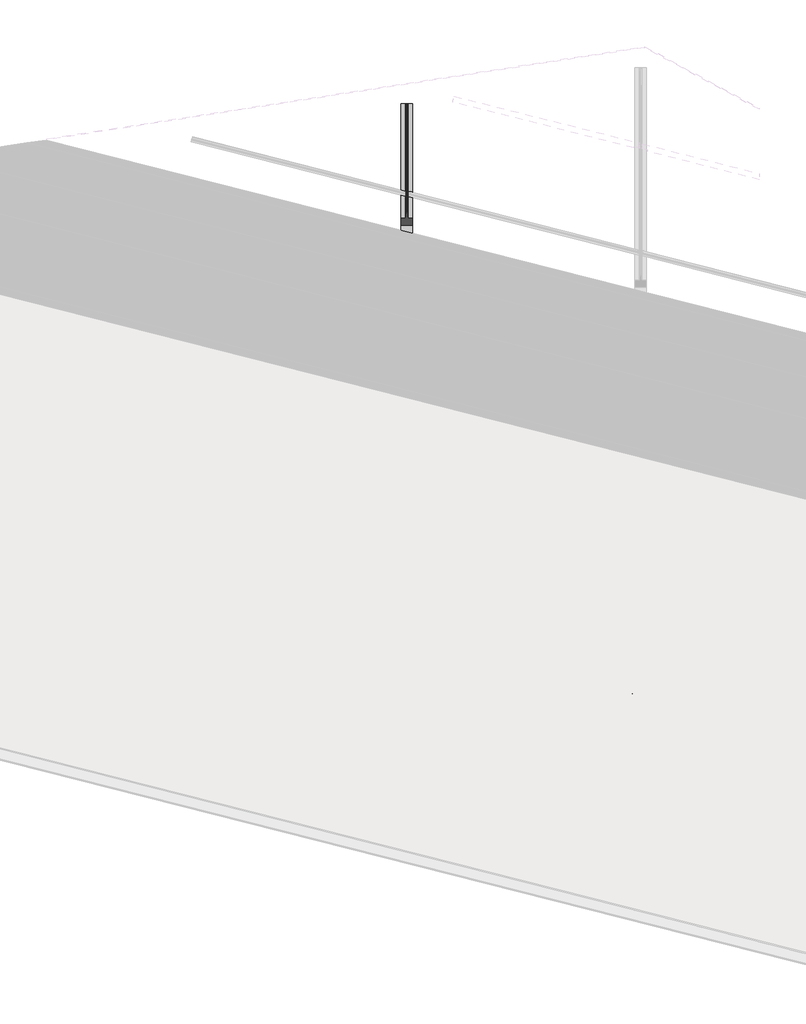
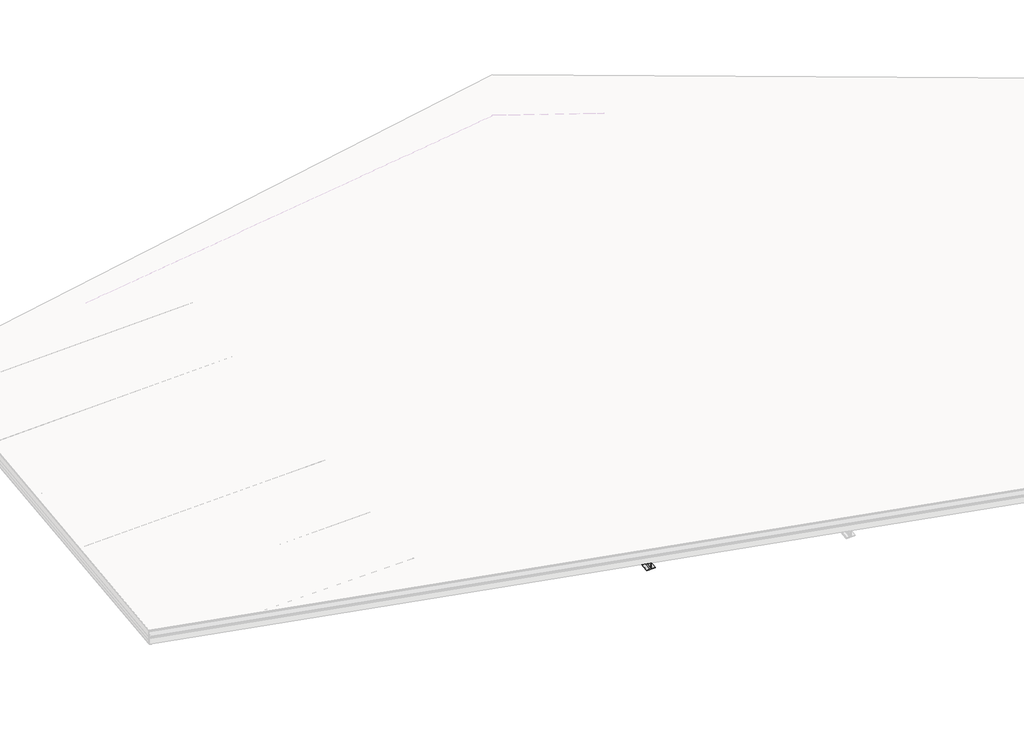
# One storey, part 4 of 10: 5 beams.
"""IFC4 building model written with IfcOpenShell, lengths in millimetres."""

from ifc_helpers import new_model, si_unit, frame, origin, place, context, project, spatial, polyline, circle_curve, ellipse_curve, transform, mapped, element, save
from ifc_brep_helpers import plane_surface, cylinder_surface, revolved_surface, advanced_brep
from components import ipe_ipe450_d757c6d6

model = new_model("IFC4")

# Units and contexts
model_context = context("Model", 3, world=origin())
ifc_project = project(units=[si_unit("LENGTHUNIT", "METRE", prefix="MILLI")], contexts=[model_context])

# Site, building, storey
site = spatial("IfcSite", under=ifc_project)
building = spatial("IfcBuilding", under=site)
storey = spatial("IfcBuildingStorey", under=building, Name="2 Toiture batiment", Elevation=872910.0)

# Beams
placement = place(None, origin())
element("IfcBeam", 1, ObjectType="IPE : IPE160", at=placement, inside=storey, context=model_context, shape_type="AdvancedBrep", body=[
    advanced_brep(
    [(25197.1489056, 7724.0120641, 873615.6308867), (25197.3709989, 7724.8861222, 873608.2860451), (25177.3279918, 7646.0038549, 873598.292759), (25177.1058985, 7645.1297968, 873605.6376005), (25184.3164925, 7673.5081734, 873609.2327461), (25186.2462212, 7681.1029396, 873619.2624856), (25182.4286168, 7666.0785896, 873745.5143561), (25179.9586611, 7656.3577361, 873753.3504473), (25172.7480671, 7627.9793594, 873749.7553017), (25172.5259737, 7627.1053013, 873757.1001432), (25192.5689808, 7705.9875687, 873767.0934294), (25192.7910741, 7706.8616268, 873759.7485879), (25185.5804801, 7678.4832501, 873756.1534422), (25183.6507514, 7670.8884839, 873746.1237028), (25187.4683558, 7685.912834, 873619.8718323), (25189.9383115, 7695.6336874, 873612.035741), (29150.9644129, 6689.1856136, 873612.0389289), (29150.9644129, 6719.3961136, 873615.6340687), (29150.9644129, 6678.8371747, 873619.8750221), (29060.6644129, 6685.786939, 873746.126823), (29060.6644129, 6687.8426887, 873729.8997086), (29149.9644129, 6665.4811187, 873727.3070486), (29150.9644129, 6665.3563978, 873726.2858893), (29060.6644129, 6693.8720255, 873756.1565609), (29060.6644129, 6724.0825256, 873759.7517008), (29060.6644129, 6723.1520363, 873767.0965425), (29060.6644129, 6639.1770871, 873757.1032724), (29060.6644129, 6640.1075764, 873749.7584307), (29060.6644129, 6670.3180764, 873753.3535706), (29060.6644129, 6680.6665153, 873745.5174773), (29150.9644129, 6673.716751, 873619.2656764), (29150.9644129, 6660.2340176, 873725.6919869), (29149.9644129, 6660.3587386, 873726.7131462), (29060.6644129, 6682.7203085, 873729.3058062), (29150.9644129, 6665.6316644, 873609.2359385), (29150.9644129, 6635.4211644, 873605.6407987), (29150.9644129, 6636.3516537, 873598.295957), (29150.9644129, 6720.3266029, 873608.289227)],
    [
        (0, 1),
        (1, 2),
        (2, 3),
        (3, 4),
        (4, 5, circle_curve(frame((25184.046379, 7672.4451298, 873618.1656615), z_axis=(0.9692031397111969, -0.2462626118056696, 7.800205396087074e-07), x_axis=(-0.24442691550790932, -0.9619788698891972, -0.12186934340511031)), 9.0)),
        (5, 6),
        (6, 7, circle_curve(frame((25180.2287746, 7657.4207797, 873744.417532), z_axis=(0.9692031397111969, -0.2462626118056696, 7.800205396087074e-07), x_axis=(-0.24442691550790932, -0.9619788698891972, -0.12186934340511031)), 9.0)),
        (7, 8),
        (8, 9),
        (9, 10),
        (10, 11),
        (11, 12),
        (12, 13, circle_curve(frame((25185.8505936, 7679.5462937, 873747.2205269), z_axis=(0.9692031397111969, -0.2462626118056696, 7.800205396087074e-07), x_axis=(-0.24442691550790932, -0.9619788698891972, -0.12186934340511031)), 9.0)),
        (13, 14),
        (14, 15, circle_curve(frame((25189.668198, 7694.5706438, 873620.9686564), z_axis=(0.9692031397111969, -0.2462626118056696, 7.800205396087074e-07), x_axis=(-0.24442691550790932, -0.9619788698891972, -0.12186934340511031)), 9.0)),
        (15, 0),
        (15, 16),
        (16, 17),
        (17, 0),
        (14, 18),
        (18, 16, ellipse_curve(frame((29150.9644129, 6688.0539374, 873620.9718445), z_axis=(1.0, 0.0, 0.0), x_axis=(0.0, 0.9999999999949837, -3.1674338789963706e-06)), 9.285979, 9.0)),
        (13, 19),
        (19, 20),
        (20, 21),
        (21, 22, ellipse_curve(frame((29149.9644129, 6665.6068073, 873726.3149224), z_axis=(0.24442691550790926, 0.9619788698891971, 0.12186934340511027), x_axis=(0.9687592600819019, -0.24770066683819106, 0.012242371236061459)), 1.0313389, 1.0)),
        (22, 18),
        (12, 23),
        (23, 19, ellipse_curve(frame((29060.6644129, 6695.0037017, 873747.2236454), z_axis=(1.0, 0.0, 0.0), x_axis=(0.0, 0.9999999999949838, -3.167435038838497e-06)), 9.285979, 9.0)),
        (11, 24),
        (24, 23),
        (10, 25),
        (25, 24),
        (9, 26),
        (26, 25),
        (8, 27),
        (27, 26),
        (7, 28),
        (28, 27),
        (6, 29),
        (29, 28, ellipse_curve(frame((29060.6644129, 6671.4497525, 873744.420655), z_axis=(1.0, 0.0, 0.0), x_axis=(0.0, 0.9999999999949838, -3.167435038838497e-06)), 9.285979, 9.0)),
        (5, 30),
        (30, 31),
        (31, 32, ellipse_curve(frame((29149.9644129, 6660.4844272, 873725.72102), z_axis=(-0.24442691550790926, -0.9619788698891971, -0.12186934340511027), x_axis=(0.9687592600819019, -0.24770066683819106, 0.012242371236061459)), 1.0313389, 1.0)),
        (32, 33),
        (33, 29),
        (4, 34),
        (34, 30, ellipse_curve(frame((29150.9644129, 6664.4999883, 873618.1688541), z_axis=(1.0, 0.0, 0.0), x_axis=(0.0, 0.9999999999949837, -3.1674338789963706e-06)), 9.285979, 9.0)),
        (3, 35),
        (35, 34),
        (2, 36),
        (36, 35),
        (1, 37),
        (37, 36),
        (17, 37),
        (22, 31),
        (21, 32),
        (20, 33),
    ],
    [
        plane_surface(frame((25184.9484863, 7675.9957118, 873682.6930942), z_axis=(-0.969203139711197, 0.24626261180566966, -7.800205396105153e-07), x_axis=(-0.030012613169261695, -0.11811595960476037, 0.9925461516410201))),
        plane_surface(frame((29190.2658412, 6709.4101035, 873615.6341003), z_axis=(-0.030012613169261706, -0.11811595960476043, 0.9925461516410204), x_axis=(-0.9692031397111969, 0.2462626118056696, -7.800205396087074e-07))),
        revolved_surface(polyline([(25187.468355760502, 7685.912834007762, 873619.8718323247), (29150.980934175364, 6678.832976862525, 873619.8750221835)]), (29182.7851336, 6679.9686832, 873620.9718701), (-0.9692031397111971, 0.24626261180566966, -7.800205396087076e-07)),
        plane_surface(frame((29180.5852914, 6671.3108733, 873619.875046), z_axis=(0.24442691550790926, 0.9619788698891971, 0.12186934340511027), x_axis=(-0.9692031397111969, 0.2462626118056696, -7.800205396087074e-07))),
        revolved_surface(polyline([(25183.650751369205, 7670.888483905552, 873746.1237028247), (29060.680934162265, 6685.782741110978, 873746.126823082)]), (29178.9675292, 6664.9443331, 873747.2237406), (-0.9692031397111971, 0.24626261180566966, -7.800205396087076e-07)),
        plane_surface(frame((29178.6974157, 6663.8812895, 873756.1566559), z_axis=(0.030012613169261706, 0.11811595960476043, -0.9925461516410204), x_axis=(-0.9692031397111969, 0.2462626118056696, -7.800205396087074e-07))),
        plane_surface(frame((29185.9080097, 6692.2596661, 873759.7518016), z_axis=(0.24442691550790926, 0.9619788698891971, 0.12186934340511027), x_axis=(-0.9692031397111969, 0.2462626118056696, -7.800205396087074e-07))),
        plane_surface(frame((29185.6859164, 6691.385608, 873767.0966431), z_axis=(-0.030012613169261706, -0.11811595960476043, 0.9925461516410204), x_axis=(-0.9692031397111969, 0.2462626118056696, -7.800205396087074e-07))),
        plane_surface(frame((29165.6429093, 6612.5033407, 873757.1033569), z_axis=(-0.24442691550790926, -0.9619788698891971, -0.12186934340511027), x_axis=(-0.9692031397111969, 0.2462626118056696, -7.800205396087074e-07))),
        plane_surface(frame((29165.8650027, 6613.3773988, 873749.7585154), z_axis=(0.030012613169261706, 0.11811595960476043, -0.9925461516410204), x_axis=(-0.9692031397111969, 0.2462626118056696, -7.800205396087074e-07))),
        revolved_surface(polyline([(25178.02893231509, 7648.762969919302, 873743.3207079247), (29060.680934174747, 6662.228791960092, 873743.3238327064)]), (29173.3457102, 6642.8188191, 873744.4207457), (-0.9692031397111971, 0.24626261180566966, -7.800205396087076e-07)),
        plane_surface(frame((29175.5455524, 6651.4766289, 873745.5175698), z_axis=(-0.24442691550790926, -0.9619788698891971, -0.12186934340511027), x_axis=(-0.9692031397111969, 0.2462626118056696, -7.800205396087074e-07))),
        revolved_surface(polyline([(25181.846536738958, 7663.787320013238, 873617.0688374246), (29150.980934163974, 6655.2790277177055, 873617.072031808)]), (29177.1633146, 6657.8431692, 873618.1688752), (-0.9692031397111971, 0.24626261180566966, -7.800205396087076e-07)),
        plane_surface(frame((29177.4334281, 6658.9062128, 873609.2359598), z_axis=(-0.030012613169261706, -0.11811595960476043, 0.9925461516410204), x_axis=(-0.9692031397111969, 0.2462626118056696, -7.800205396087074e-07))),
        plane_surface(frame((29170.2228341, 6630.5278361, 873605.6408142), z_axis=(-0.24442691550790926, -0.9619788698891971, -0.12186934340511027), x_axis=(-0.9692031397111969, 0.2462626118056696, -7.800205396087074e-07))),
        plane_surface(frame((29170.4449274, 6631.4018942, 873598.2959727), z_axis=(0.030012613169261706, 0.11811595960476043, -0.9925461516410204), x_axis=(-0.9692031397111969, 0.2462626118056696, -7.800205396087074e-07))),
        plane_surface(frame((29190.4879345, 6710.2841616, 873608.2892588), z_axis=(0.24442691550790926, 0.9619788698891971, 0.12186934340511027), x_axis=(-0.9692031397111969, 0.2462626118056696, -7.800205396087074e-07))),
        plane_surface(frame((29150.9644129, 11714.882228, 873930.4038127), z_axis=(1.0, 0.0, 0.0), x_axis=(0.0, -0.9933456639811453, -0.11517114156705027))),
        cylinder_surface(frame((29149.9644129, 5615.1745573, 873604.52501), z_axis=(0.0, -0.9933456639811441, -0.11517114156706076), x_axis=(1.0, 0.0, 0.0)), 1.0),
        plane_surface(frame((29149.9644129, 11671.1402284, 874307.6764959), z_axis=(0.0, -0.11517114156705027, 0.9933456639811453), x_axis=(0.0, -0.9933456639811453, -0.11517114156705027))),
        plane_surface(frame((29060.6644129, 11671.1402284, 874307.6764959), z_axis=(1.0, 0.0, 0.0), x_axis=(0.0, -0.9933456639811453, -0.11517114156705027))),
    ],
    [
        (0, [[1, 2, 3, 4, 5, 6, 7, 8, 9, 10, 11, 12, 13, 14, 15, 16]]),
        (1, [[-16, 17, 18, 19]]),
        (2, [[-15, 20, 21, -17]]),
        (3, [[-14, 22, 23, 24, 25, 26, -20]]),
        (4, [[-13, 27, 28, -22]]),
        (5, [[-12, 29, 30, -27]]),
        (6, [[-11, 31, 32, -29]]),
        (7, [[-10, 33, 34, -31]]),
        (8, [[-9, 35, 36, -33]]),
        (9, [[-8, 37, 38, -35]]),
        (10, [[-7, 39, 40, -37]]),
        (11, [[-6, 41, 42, 43, 44, 45, -39]]),
        (12, [[-5, 46, 47, -41]]),
        (13, [[-4, 48, 49, -46]]),
        (14, [[-3, 50, 51, -48]]),
        (15, [[-2, 52, 53, -50]]),
        (16, [[-1, -19, 54, -52]]),
        (17, [[55, -42, -47, -49, -51, -53, -54, -18, -21, -26]]),
        (18, [[-55, -25, 56, -43]]),
        (19, [[-56, -24, 57, -44]]),
        (20, [[-57, -23, -28, -30, -32, -34, -36, -38, -40, -45]]),
    ],
),
])
element("IfcBeam", 2, ObjectType="IPE : IPE160", at=placement, inside=storey, context=model_context, shape_type="AdvancedBrep", body=[
    advanced_brep(
    [(25201.7250673, 5913.9213425, 873402.8842863), (25201.7250947, 5913.9213355, 873395.4842863), (25181.5778375, 5834.434934, 873395.4842863), (25181.5778101, 5834.4349409, 873402.8842863), (25188.8259087, 5863.0306586, 873402.8842863), (25191.0371597, 5871.7547843, 873411.8842863), (25191.0366883, 5871.7549037, 873539.0842863), (25188.8253706, 5863.030795, 873548.0842863), (25181.577272, 5834.4350773, 873548.0842863), (25181.5772445, 5834.4350843, 873555.4842863), (25201.7245017, 5913.9214858, 873555.4842863), (25201.7245292, 5913.9214789, 873548.0842863), (25194.4764305, 5885.3257612, 873548.0842863), (25192.2651796, 5876.6016355, 873539.0842863), (25192.265651, 5876.6015161, 873411.8842863), (25194.4769687, 5885.3256248, 873402.8842863), (29150.9644129, 4882.4827656, 873402.8998914), (29150.9643961, 4912.9156441, 873402.8998628), (29150.9644129, 4873.1981586, 873411.8999002), (29060.6644129, 4896.0863168, 873539.099544), (29060.6644129, 4896.0863168, 873522.1587034), (29149.9644129, 4873.4516266, 873519.5343771), (29150.9644129, 4873.1981586, 873518.4982905), (29060.6644129, 4905.3709238, 873548.0995353), (29060.6644129, 4935.8038023, 873548.0995067), (29060.6644129, 4935.8038023, 873555.4995067), (29060.6644129, 4851.2107163, 873555.4995862), (29060.6644129, 4851.2107163, 873548.0995862), (29060.6644129, 4881.6435948, 873548.0995576), (29060.6644129, 4890.9282018, 873539.0995488), (29150.9644129, 4868.0400436, 873411.899905), (29150.9644129, 4868.0400436, 873517.9002449), (29149.9644129, 4868.2935116, 873518.9363315), (29060.6644129, 4890.9282018, 873521.5606578), (29150.9644129, 4858.7554366, 873402.8999137), (29150.9644129, 4828.3225581, 873402.8999423), (29150.9644129, 4828.3225581, 873395.4999423), (29150.9644129, 4912.9156441, 873395.4998628)],
    [
        (0, 1),
        (1, 2),
        (2, 3),
        (3, 4),
        (4, 5, circle_curve(frame((25188.8258754, 5863.030667, 873411.8842863), z_axis=(0.9693463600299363, -0.24569825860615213, 3.8232808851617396e-06), x_axis=(-0.2456982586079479, -0.9693463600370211, 0.0)), 9.0)),
        (5, 6),
        (6, 7, circle_curve(frame((25188.8254039, 5863.0307865, 873539.0842863), z_axis=(0.9693463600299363, -0.24569825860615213, 3.8232808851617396e-06), x_axis=(-0.2456982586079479, -0.9693463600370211, 0.0)), 9.0)),
        (7, 8),
        (8, 9),
        (9, 10),
        (10, 11),
        (11, 12),
        (12, 13, circle_curve(frame((25194.4764639, 5885.3257528, 873539.0842863), z_axis=(0.9693463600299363, -0.24569825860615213, 3.8232808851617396e-06), x_axis=(-0.2456982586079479, -0.9693463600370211, 0.0)), 9.0)),
        (13, 14),
        (14, 15, circle_curve(frame((25194.4769353, 5885.3256333, 873411.8842863), z_axis=(0.9693463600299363, -0.24569825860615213, 3.8232808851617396e-06), x_axis=(-0.2456982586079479, -0.9693463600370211, 0.0)), 9.0)),
        (15, 0),
        (15, 16),
        (16, 17),
        (17, 0),
        (14, 18),
        (18, 16, ellipse_curve(frame((29150.9644129, 4882.4827656, 873411.8998914), z_axis=(1.0, 0.0, 0.0), x_axis=(0.0, 0.9999999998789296, -1.5560879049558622e-05)), 9.284607, 9.0)),
        (13, 19),
        (19, 20),
        (20, 21),
        (21, 22, ellipse_curve(frame((29149.9644129, 4873.4516266, 873518.5276782), z_axis=(0.2456982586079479, 0.9693463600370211, 0.0), x_axis=(0.8766424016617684, -0.22220077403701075, -0.42676095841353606)), 1.0385338, 1.0)),
        (22, 18),
        (12, 23),
        (23, 19, ellipse_curve(frame((29060.6644129, 4905.3709238, 873539.0995353), z_axis=(1.0, 0.0, 0.0), x_axis=(0.0, 0.9999999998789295, -1.5560880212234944e-05)), 9.284607, 9.0)),
        (11, 24),
        (24, 23),
        (10, 25),
        (25, 24),
        (9, 26),
        (26, 25),
        (8, 27),
        (27, 26),
        (7, 28),
        (28, 27),
        (6, 29),
        (29, 28, ellipse_curve(frame((29060.6644129, 4881.6435948, 873539.0995576), z_axis=(1.0, 0.0, 0.0), x_axis=(0.0, 0.9999999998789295, -1.5560880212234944e-05)), 9.284607, 9.0)),
        (5, 30),
        (30, 31),
        (31, 32, ellipse_curve(frame((29149.9644129, 4868.2935116, 873517.9296326), z_axis=(-0.2456982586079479, -0.9693463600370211, 0.0), x_axis=(0.8766424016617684, -0.22220077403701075, -0.42676095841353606)), 1.0385338, 1.0)),
        (32, 33),
        (33, 29),
        (4, 34),
        (34, 30, ellipse_curve(frame((29150.9644129, 4858.7554366, 873411.8999137), z_axis=(1.0, 0.0, 0.0), x_axis=(0.0, 0.9999999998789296, -1.5560879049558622e-05)), 9.284607, 9.0)),
        (3, 35),
        (35, 34),
        (2, 36),
        (36, 35),
        (1, 37),
        (37, 36),
        (17, 37),
        (22, 31),
        (21, 32),
        (20, 33),
    ],
    [
        plane_surface(frame((25191.6511696, 5874.1782099, 873475.4842863), z_axis=(-0.9693463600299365, 0.24569825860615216, -3.8232808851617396e-06), x_axis=(-3.7060834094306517e-06, 9.393734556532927e-07, 0.9999999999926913))),
        plane_surface(frame((29185.738607, 4904.1014996, 873402.9), z_axis=(-3.7060834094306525e-06, 9.393734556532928e-07, 0.9999999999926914), x_axis=(-0.9693463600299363, 0.24569825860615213, -3.8232808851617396e-06))),
        revolved_surface(polyline([(25192.265650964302, 5876.601516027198, 873411.8842863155), (29150.96441290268, 4873.198158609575, 873411.8999001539)]), (29178.490475, 4875.5057904, 873411.9), (-0.9693463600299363, 0.24569825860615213, -3.8232808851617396e-06)),
        plane_surface(frame((29176.2791907, 4866.7816732, 873411.9), z_axis=(0.2456982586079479, 0.9693463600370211, 0.0), x_axis=(-0.9693463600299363, 0.24569825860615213, -3.8232808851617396e-06))),
        revolved_surface(polyline([(25192.26517953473, 5876.601635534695, 873539.0842863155), (29060.66441288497, 4896.086316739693, 873539.0995439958)]), (29178.4900036, 4875.5059099, 873539.1), (-0.9693463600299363, 0.24569825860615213, -3.8232808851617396e-06)),
        plane_surface(frame((29178.4899703, 4875.5059184, 873548.1), z_axis=(3.7060834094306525e-06, -9.393734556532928e-07, -0.9999999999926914), x_axis=(-0.9693463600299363, 0.24569825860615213, -3.8232808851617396e-06))),
        plane_surface(frame((29185.7380689, 4904.101636, 873548.1), z_axis=(0.2456982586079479, 0.9693463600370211, 0.0), x_axis=(-0.9693463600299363, 0.24569825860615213, -3.8232808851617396e-06))),
        plane_surface(frame((29185.7380415, 4904.1016429, 873555.5), z_axis=(-3.7060834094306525e-06, 9.393734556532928e-07, 0.9999999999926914), x_axis=(-0.9693463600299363, 0.24569825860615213, -3.8232808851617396e-06))),
        plane_surface(frame((29165.5907843, 4824.6152414, 873555.5), z_axis=(-0.2456982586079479, -0.9693463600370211, 0.0), x_axis=(-0.9693463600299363, 0.24569825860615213, -3.8232808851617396e-06))),
        plane_surface(frame((29165.5908117, 4824.6152345, 873548.1), z_axis=(3.7060834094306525e-06, -9.393734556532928e-07, -0.9999999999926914), x_axis=(-0.9693463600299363, 0.24569825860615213, -3.8232808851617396e-06))),
        revolved_surface(polyline([(25186.614119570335, 5854.3066692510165, 873539.0842863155), (29060.664412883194, 4872.358987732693, 873539.0995662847)]), (29172.8389437, 4853.2109436, 873539.1), (-0.9693463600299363, 0.24569825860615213, -3.8232808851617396e-06)),
        plane_surface(frame((29175.050228, 4861.9350609, 873539.1), z_axis=(-0.2456982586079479, -0.9693463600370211, 0.0), x_axis=(-0.9693463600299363, 0.24569825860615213, -3.8232808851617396e-06))),
        revolved_surface(polyline([(25186.614590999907, 5854.30654974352, 873411.8842863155), (29150.964412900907, 4849.470829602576, 873411.8999224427)]), (29172.8394151, 4853.2108241, 873411.9), (-0.9693463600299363, 0.24569825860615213, -3.8232808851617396e-06)),
        plane_surface(frame((29172.8394484, 4853.2108157, 873402.9), z_axis=(-3.7060834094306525e-06, 9.393734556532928e-07, 0.9999999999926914), x_axis=(-0.9693463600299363, 0.24569825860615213, -3.8232808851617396e-06))),
        plane_surface(frame((29165.5913498, 4824.6150981, 873402.9), z_axis=(-0.2456982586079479, -0.9693463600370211, 0.0), x_axis=(-0.9693463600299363, 0.24569825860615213, -3.8232808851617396e-06))),
        plane_surface(frame((29165.5913772, 4824.6150911, 873395.5), z_axis=(3.7060834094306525e-06, -9.393734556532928e-07, -0.9999999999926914), x_axis=(-0.9693463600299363, 0.24569825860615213, -3.8232808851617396e-06))),
        plane_surface(frame((29185.7386344, 4904.1014926, 873395.5), z_axis=(0.2456982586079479, 0.9693463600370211, 0.0), x_axis=(-0.9693463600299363, 0.24569825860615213, -3.8232808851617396e-06))),
        plane_surface(frame((29150.9644129, 11714.882228, 873930.4038127), z_axis=(1.0, 0.0, 0.0), x_axis=(0.0, -0.9933456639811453, -0.11517114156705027))),
        cylinder_surface(frame((29149.9644129, 5615.1745573, 873604.52501), z_axis=(0.0, -0.9933456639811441, -0.11517114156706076), x_axis=(1.0, 0.0, 0.0)), 1.0),
        plane_surface(frame((29149.9644129, 11671.1402284, 874307.6764959), z_axis=(0.0, -0.11517114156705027, 0.9933456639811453), x_axis=(0.0, -0.9933456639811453, -0.11517114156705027))),
        plane_surface(frame((29060.6644129, 11671.1402284, 874307.6764959), z_axis=(1.0, 0.0, 0.0), x_axis=(0.0, -0.9933456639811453, -0.11517114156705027))),
    ],
    [
        (0, [[1, 2, 3, 4, 5, 6, 7, 8, 9, 10, 11, 12, 13, 14, 15, 16]]),
        (1, [[-16, 17, 18, 19]]),
        (2, [[-15, 20, 21, -17]]),
        (3, [[-14, 22, 23, 24, 25, 26, -20]]),
        (4, [[-13, 27, 28, -22]]),
        (5, [[-12, 29, 30, -27]]),
        (6, [[-11, 31, 32, -29]]),
        (7, [[-10, 33, 34, -31]]),
        (8, [[-9, 35, 36, -33]]),
        (9, [[-8, 37, 38, -35]]),
        (10, [[-7, 39, 40, -37]]),
        (11, [[-6, 41, 42, 43, 44, 45, -39]]),
        (12, [[-5, 46, 47, -41]]),
        (13, [[-4, 48, 49, -46]]),
        (14, [[-3, 50, 51, -48]]),
        (15, [[-2, 52, 53, -50]]),
        (16, [[-1, -19, 54, -52]]),
        (17, [[55, -42, -47, -49, -51, -53, -54, -18, -21, -26]]),
        (18, [[-55, -25, 56, -43]]),
        (19, [[-56, -24, 57, -44]]),
        (20, [[-57, -23, -28, -30, -32, -34, -36, -38, -40, -45]]),
    ],
),
])
element("IfcBeam", 3, ObjectType="IPE : IPE160", at=placement, inside=storey, context=model_context, shape_type="AdvancedBrep", body=[
    advanced_brep(
    [(29200.3644129, 2836.9852261, 873163.6295425), (29200.3644129, 2806.7711643, 873160.0323767), (33048.0031572, 1827.2345514, 873158.9563998), (33048.0031572, 1857.4486132, 873162.5535656), (29200.3644129, 2845.0712659, 873173.659823), (33048.0031572, 1865.534653, 873172.5838461), (29290.6644129, 2806.0863385, 873299.8853765), (29290.6644129, 2808.5895422, 873280.1287683), (29201.3644129, 2830.9976315, 873282.7268219), (29200.3644129, 2831.3742662, 873281.763791), (33048.0031572, 1851.85934, 873280.5166504), (33047.0031572, 1851.9845322, 873281.538137), (32957.7031572, 1874.389457, 873284.1611661), (32957.7031572, 1872.5270961, 873298.8599037), (29290.6644129, 2795.7366795, 873307.7207761), (32957.7031572, 1862.1774371, 873306.6953033), (29290.6644129, 2765.5226177, 873304.1236103), (32957.7031572, 1831.9633753, 873303.0981375), (29290.6644129, 2764.5920187, 873311.4683899), (32957.7031572, 1831.0327763, 873310.442917), (29290.6644129, 2848.5768685, 873321.4672916), (32957.7031572, 1915.0176261, 873320.4418187), (29290.6644129, 2849.5074675, 873314.122512), (32957.7031572, 1915.9482251, 873313.0970392), (29290.6644129, 2819.2934057, 873310.5253461), (32957.7031572, 1885.7341633, 873309.4998733), (29290.6644129, 2811.2073659, 873300.4950657), (32957.7031572, 1877.6481235, 873299.4695929), (29290.6644129, 2813.7125605, 873280.7227447), (32957.7031572, 1879.5117518, 873284.7608525), (33047.0031572, 1857.106827, 873282.1378233), (33048.0031572, 1856.9816348, 873281.1163368), (33048.0031572, 1870.6556804, 873173.1935352), (29200.3644129, 2850.1922933, 873174.2695121), (29200.3644129, 2836.4972844, 873282.3577674), (29201.3644129, 2836.1206497, 873283.3207983), (29200.3644129, 2860.5419523, 873166.4341125), (33048.0031572, 1881.0053393, 873165.3581356), (29200.3644129, 2890.7560141, 873170.0312784), (33048.0031572, 1911.2194012, 873168.9553015), (29200.3644129, 2891.6866131, 873162.6864988), (33048.0031572, 1912.1500001, 873161.6105219), (29200.3644129, 2807.7017633, 873152.6875971), (33048.0031572, 1828.1651504, 873151.6116202)],
    [
        (0, 1),
        (1, 2),
        (2, 3),
        (3, 0),
        (4, 0, ellipse_curve(frame((29200.3644129, 2835.8534165, 873172.5623825), z_axis=(-1.0, 0.0, 0.0), x_axis=(0.0, -0.9999993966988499, -0.0010984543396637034)), 9.2870741, 9.0)),
        (3, 5, ellipse_curve(frame((33048.0031572, 1856.3168036, 873171.4864056), z_axis=(1.0, 0.0, 0.0), x_axis=(0.0, -0.9999993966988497, -0.0010984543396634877)), 9.2870741, 9.0)),
        (5, 4),
        (6, 7),
        (7, 8),
        (8, 9, ellipse_curve(frame((29201.3644129, 2831.1233357, 873281.7346974), z_axis=(-0.2449048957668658, -0.9618572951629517, -0.12186933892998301), x_axis=(0.9686396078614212, -0.24817228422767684, 0.012158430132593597)), 1.0314674, 1.0)),
        (9, 4),
        (5, 10),
        (10, 11, ellipse_curve(frame((33047.0031572, 1852.110235, 873280.5460237), z_axis=(-0.2449048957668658, -0.9618572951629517, -0.12186933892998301), x_axis=(0.9688203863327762, -0.24764620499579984, 0.007643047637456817)), 1.0314558, 1.0)),
        (11, 12),
        (12, 13),
        (13, 6),
        (14, 6, ellipse_curve(frame((29290.6644129, 2796.8684891, 873298.7879361), z_axis=(-1.0, 0.0, 0.0), x_axis=(0.0, -0.9999993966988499, -0.0010984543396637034)), 9.2870741, 9.0)),
        (13, 15, ellipse_curve(frame((32957.7031572, 1863.3092467, 873297.7624633), z_axis=(1.0, 0.0, 0.0), x_axis=(0.0, -0.9999993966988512, -0.0010984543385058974)), 9.2870741, 9.0)),
        (15, 14),
        (16, 14),
        (15, 17),
        (17, 16),
        (18, 16),
        (17, 19),
        (19, 18),
        (20, 18),
        (19, 21),
        (21, 20),
        (22, 20),
        (21, 23),
        (23, 22),
        (24, 22),
        (23, 25),
        (25, 24),
        (26, 24, ellipse_curve(frame((29290.6644129, 2820.4252153, 873301.5925061), z_axis=(-1.0, 0.0, 0.0), x_axis=(0.0, -0.9999993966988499, -0.0010984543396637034)), 9.2870741, 9.0)),
        (25, 27, ellipse_curve(frame((32957.7031572, 1886.8659729, 873300.5670333), z_axis=(1.0, 0.0, 0.0), x_axis=(0.0, -0.9999993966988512, -0.0010984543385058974)), 9.2870741, 9.0)),
        (27, 26),
        (28, 26),
        (27, 29),
        (29, 30),
        (30, 31, ellipse_curve(frame((33047.0031572, 1857.2325298, 873281.14571), z_axis=(0.2449048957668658, 0.9618572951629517, 0.12186933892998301), x_axis=(0.9688203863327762, -0.24764620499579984, 0.007643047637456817)), 1.0314558, 1.0)),
        (31, 32),
        (32, 33),
        (33, 34),
        (34, 35, ellipse_curve(frame((29201.3644129, 2836.246354, 873282.3286738), z_axis=(0.2449048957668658, 0.9618572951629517, 0.12186933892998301), x_axis=(0.9686396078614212, -0.24817228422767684, 0.012158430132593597)), 1.0314674, 1.0)),
        (35, 28),
        (36, 33, ellipse_curve(frame((29200.3644129, 2859.4101427, 873175.3669525), z_axis=(-1.0, 0.0, 0.0), x_axis=(0.0, -0.9999993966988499, -0.0010984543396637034)), 9.2870741, 9.0)),
        (32, 37, ellipse_curve(frame((33048.0031572, 1879.8735297, 873174.2909756), z_axis=(1.0, 0.0, 0.0), x_axis=(0.0, -0.9999993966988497, -0.0010984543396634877)), 9.2870741, 9.0)),
        (37, 36),
        (38, 36),
        (37, 39),
        (39, 38),
        (40, 38),
        (39, 41),
        (41, 40),
        (42, 40),
        (41, 43),
        (43, 42),
        (1, 42),
        (43, 2),
        (28, 7),
        (35, 8),
        (34, 9),
        (31, 10),
        (30, 11),
        (29, 12),
    ],
    [
        plane_surface(frame((29170.1925764, 2814.4523476, 873160.0408141), z_axis=(-0.029805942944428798, -0.1181685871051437, 0.9925461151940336), x_axis=(0.9690888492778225, -0.24671183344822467, -0.00027100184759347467))),
        revolved_surface(polyline([(33052.427709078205, 1864.4082450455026, 873172.5826087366), (29200.348149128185, 2845.075406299, 873173.6598274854)]), (29177.1490173, 2841.7636205, 873172.5688746), (0.9690888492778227, -0.24671183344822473, -0.0002710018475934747)),
        plane_surface(frame((29179.3531614, 2850.4203362, 873173.6656987), z_axis=(-0.2449048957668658, -0.9618572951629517, -0.12186933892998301), x_axis=(0.9690888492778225, -0.24671183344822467, -0.00027100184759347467))),
        revolved_surface(polyline([(32962.1277091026, 1871.4006882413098, 873298.8586664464), (29290.648149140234, 2806.0904789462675, 873299.8853811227)]), (29173.3577014, 2826.7325763, 873298.8207405), (0.9690888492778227, -0.24671183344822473, -0.0002710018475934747)),
        plane_surface(frame((29173.0894479, 2825.669059, 873307.7536555), z_axis=(0.029805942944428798, 0.1181685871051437, -0.9925461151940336), x_axis=(0.9690888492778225, -0.24671183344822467, -0.00027100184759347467))),
        plane_surface(frame((29165.8647535, 2797.2942688, 873304.15851), z_axis=(-0.2449048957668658, -0.9618572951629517, -0.12186933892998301), x_axis=(0.9690888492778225, -0.24671183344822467, -0.00027100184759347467))),
        plane_surface(frame((29165.6441895, 2796.4198212, 873311.5033513), z_axis=(-0.029805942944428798, -0.1181685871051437, 0.9925461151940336), x_axis=(0.9690888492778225, -0.24671183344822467, -0.00027100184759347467))),
        plane_surface(frame((29185.726391, 2875.2921194, 873321.4966371), z_axis=(0.2449048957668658, 0.9618572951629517, 0.12186933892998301), x_axis=(0.9690888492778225, -0.24671183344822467, -0.00027100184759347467))),
        plane_surface(frame((29185.9469549, 2876.166567, 873314.1517958), z_axis=(0.029805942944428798, 0.1181685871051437, -0.9925461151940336), x_axis=(0.9690888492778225, -0.24671183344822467, -0.00027100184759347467))),
        revolved_surface(polyline([(32962.12770907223, 1894.9574143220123, 873301.6632364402), (29290.64814910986, 2829.6472050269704, 873302.6899511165)]), (29178.990514, 2848.855294, 873301.6237353), (0.9690888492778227, -0.24671183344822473, -0.0002710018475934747)),
        plane_surface(frame((29176.7863699, 2840.1985784, 873300.5269112), z_axis=(0.2449048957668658, 0.9618572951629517, 0.12186933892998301), x_axis=(0.9690888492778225, -0.24671183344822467, -0.00027100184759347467))),
        revolved_surface(polyline([(33052.42770909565, 1887.9649712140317, 873175.3871787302), (29200.34814912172, 2868.6321324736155, 873176.4643974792)]), (29182.7818299, 2863.8863383, 873175.3718694), (0.9690888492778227, -0.24671183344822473, -0.0002710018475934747)),
        plane_surface(frame((29183.0500834, 2864.9498556, 873166.4389544), z_axis=(-0.029805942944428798, -0.1181685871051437, 0.9925461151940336), x_axis=(0.9690888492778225, -0.24671183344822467, -0.00027100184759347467))),
        plane_surface(frame((29190.2747779, 2893.3246458, 873170.0340999), z_axis=(0.2449048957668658, 0.9618572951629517, 0.12186933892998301), x_axis=(0.9690888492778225, -0.24671183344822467, -0.00027100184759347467))),
        plane_surface(frame((29190.4953418, 2894.1990934, 873162.6892586), z_axis=(0.029805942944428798, 0.1181685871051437, -0.9925461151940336), x_axis=(0.9690888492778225, -0.24671183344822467, -0.00027100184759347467))),
        plane_surface(frame((29170.4131404, 2815.3267952, 873152.6959728), z_axis=(-0.2449048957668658, -0.9618572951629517, -0.12186933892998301), x_axis=(0.9690888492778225, -0.24671183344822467, -0.00027100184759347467))),
        plane_surface(frame((29290.6644129, 11664.8518841, 874361.9131692), z_axis=(-1.0, 0.0, 0.0), x_axis=(0.0, -0.9933456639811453, -0.11517114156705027))),
        plane_surface(frame((29290.6644129, 11671.1402284, 874307.6764959), z_axis=(0.0, -0.11517114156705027, 0.9933456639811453), x_axis=(0.0, -0.9933456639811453, -0.11517114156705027))),
        cylinder_surface(frame((29201.3644129, 5615.1745573, 873604.52501), z_axis=(0.0, -0.9933456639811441, -0.11517114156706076), x_axis=(0.0, -0.11517114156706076, 0.9933456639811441)), 1.0),
        plane_surface(frame((29200.3644129, 11671.2553996, 874306.6831503), z_axis=(-1.0, 0.0, 0.0), x_axis=(0.0, -0.9933456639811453, -0.11517114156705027))),
        plane_surface(frame((33048.0031572, 12313.5310461, 874123.9169234), z_axis=(1.0, 0.0, 0.0), x_axis=(0.0, -0.9932165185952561, -0.1162796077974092))),
        cylinder_surface(frame((33047.0031572, 5419.220341, 873698.1610717), z_axis=(0.0, -0.9932165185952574, -0.11627960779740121), x_axis=(1.0000000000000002, 0.0, 0.0)), 1.0),
        plane_surface(frame((33047.0031572, 12269.368051, 874501.1405571), z_axis=(0.0, -0.11627960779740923, 0.9932165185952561), x_axis=(0.0, -0.9932165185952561, -0.11627960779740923))),
        plane_surface(frame((32957.7031572, 12269.368051, 874501.1405571), z_axis=(1.0, 0.0, 0.0), x_axis=(0.0, -0.9932165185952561, -0.11627960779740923))),
    ],
    [
        (0, [[1, 2, 3, 4]]),
        (1, [[5, -4, 6, 7]]),
        (2, [[8, 9, 10, 11, -7, 12, 13, 14, 15, 16]]),
        (3, [[17, -16, 18, 19]]),
        (4, [[20, -19, 21, 22]]),
        (5, [[23, -22, 24, 25]]),
        (6, [[26, -25, 27, 28]]),
        (7, [[29, -28, 30, 31]]),
        (8, [[32, -31, 33, 34]]),
        (9, [[35, -34, 36, 37]]),
        (10, [[38, -37, 39, 40, 41, 42, 43, 44, 45, 46]]),
        (11, [[47, -43, 48, 49]]),
        (12, [[50, -49, 51, 52]]),
        (13, [[53, -52, 54, 55]]),
        (14, [[56, -55, 57, 58]]),
        (15, [[59, -58, 60, -2]]),
        (16, [[61, -8, -17, -20, -23, -26, -29, -32, -35, -38]]),
        (17, [[-61, -46, 62, -9]]),
        (18, [[-62, -45, 63, -10]]),
        (19, [[-63, -44, -47, -50, -53, -56, -59, -1, -5, -11]]),
        (20, [[64, -12, -6, -3, -60, -57, -54, -51, -48, -42]]),
        (21, [[-64, -41, 65, -13]]),
        (22, [[-65, -40, 66, -14]]),
        (23, [[-66, -39, -36, -33, -30, -27, -24, -21, -18, -15]]),
    ],
),
])
element("IfcBeam", 4, ObjectType="IPE : IPE160", at=placement, inside=storey, context=model_context, shape_type="AdvancedBrep", body=[
    advanced_brep(
    [(33048.0031572, 3869.643157, 873398.0764096), (33048.0031572, 3899.8314752, 873401.6733281), (29200.3644129, 4865.5646789, 873402.6302473), (29200.3644129, 4835.3763606, 873399.0333288), (33048.0031572, 3907.9106254, 873411.7035423), (29200.3644129, 4873.643829, 873412.6604615), (33048.0031572, 3894.248184, 873519.6268236), (33047.0031572, 3894.3699459, 873520.6479085), (32957.7031572, 3916.4591176, 873523.2339713), (32957.7031572, 3914.5927466, 873537.9769357), (29290.6644129, 4834.9964824, 873538.8889392), (29290.6644129, 4837.9674779, 873515.4202504), (29201.3644129, 4860.0597668, 873517.9816892), (29200.3644129, 4860.4327594, 873517.0182361), (32957.7031572, 3904.2519059, 873545.81242), (29290.6644129, 4824.6556418, 873546.7244235), (32957.7031572, 3874.0635877, 873542.2155015), (29290.6644129, 4794.4673235, 873543.127505), (32957.7031572, 3873.1337816, 873549.5602886), (29290.6644129, 4793.5375174, 873550.4722921), (32957.7031572, 3957.047073, 873559.5585028), (29290.6644129, 4877.4508088, 873560.4705062), (32957.7031572, 3957.976879, 873552.2137156), (29290.6644129, 4878.3806149, 873553.1257191), (32957.7031572, 3927.7885608, 873548.6167971), (29290.6644129, 4848.1922967, 873549.5288006), (32957.7031572, 3919.7094107, 873538.5865829), (29290.6644129, 4840.1131465, 873539.4985864), (33048.0031572, 3899.3661729, 873520.2260059), (33048.0031572, 3913.0272895, 873412.3131895), (29200.3644129, 4878.7604931, 873413.2701087), (29200.3644129, 4865.5514706, 873517.6117131), (29201.3644129, 4865.178478, 873518.5751663), (29290.6644129, 4843.0861891, 873516.0137274), (32957.7031572, 3921.5771065, 873523.8331535), (33047.0031572, 3899.4879349, 873521.2470908), (33048.0031572, 3923.3681301, 873404.4777052), (29200.3644129, 4889.1013338, 873405.4346244), (33048.0031572, 3953.5564483, 873408.0746237), (29200.3644129, 4919.289652, 873409.0315429), (33048.0031572, 3954.4862544, 873400.7298366), (29200.3644129, 4920.2194581, 873401.6867558), (33048.0031572, 3870.5729631, 873390.7316224), (29200.3644129, 4836.3061667, 873391.6885417)],
    [
        (0, 1),
        (1, 2),
        (2, 3),
        (3, 0),
        (1, 4, ellipse_curve(frame((33048.0031572, 3898.70063, 873410.6061773), z_axis=(1.0, 0.0, 0.0), x_axis=(0.0, -0.9999995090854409, -0.0009908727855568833)), 9.2791611, 9.0)),
        (4, 5),
        (5, 2, ellipse_curve(frame((29200.3644129, 4864.4338336, 873411.5630965), z_axis=(-1.0, 0.0, 0.0), x_axis=(0.0, -0.999999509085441, -0.0009908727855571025)), 9.2791611, 9.0)),
        (4, 6),
        (6, 7, ellipse_curve(frame((33047.0031572, 3894.4955431, 873519.6557829), z_axis=(-0.24165658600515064, -0.9626785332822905, -0.12186933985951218), x_axis=(0.9696314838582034, -0.2444345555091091, 0.008156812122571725)), 1.0305888, 1.0)),
        (7, 8),
        (8, 9),
        (9, 10),
        (10, 11),
        (11, 12),
        (12, 13, ellipse_curve(frame((29201.3644129, 4860.1853654, 873516.9895526), z_axis=(-0.24165658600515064, -0.9626785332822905, -0.12186933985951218), x_axis=(0.969447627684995, -0.24496769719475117, 0.012732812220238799)), 1.0306002, 1.0)),
        (13, 5),
        (9, 14, ellipse_curve(frame((32957.7031572, 3905.3827512, 873536.8795708), z_axis=(1.0, 0.0, 0.0), x_axis=(0.0, -0.9999995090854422, -0.000990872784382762)), 9.2791611, 9.0)),
        (14, 15),
        (15, 10, ellipse_curve(frame((29290.6644129, 4825.786487, 873537.7915742), z_axis=(-1.0, 0.0, 0.0), x_axis=(0.0, -0.999999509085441, -0.0009908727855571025)), 9.2791611, 9.0)),
        (14, 16),
        (16, 17),
        (17, 15),
        (16, 18),
        (18, 19),
        (19, 17),
        (18, 20),
        (20, 21),
        (21, 19),
        (20, 22),
        (22, 23),
        (23, 21),
        (22, 24),
        (24, 25),
        (25, 23),
        (24, 26, ellipse_curve(frame((32957.7031572, 3928.9194061, 873539.6839479), z_axis=(1.0, 0.0, 0.0), x_axis=(0.0, -0.9999995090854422, -0.000990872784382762)), 9.2791611, 9.0)),
        (26, 27),
        (27, 25, ellipse_curve(frame((29290.6644129, 4849.3231419, 873540.5959514), z_axis=(-1.0, 0.0, 0.0), x_axis=(0.0, -0.999999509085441, -0.0009908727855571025)), 9.2791611, 9.0)),
        (28, 29),
        (29, 30),
        (30, 31),
        (31, 32, ellipse_curve(frame((29201.3644129, 4865.3040765, 873517.5830296), z_axis=(0.24165658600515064, 0.9626785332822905, 0.12186933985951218), x_axis=(0.969447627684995, -0.24496769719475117, 0.012732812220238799)), 1.0306002, 1.0)),
        (32, 33),
        (33, 27),
        (26, 34),
        (34, 35),
        (35, 28, ellipse_curve(frame((33047.0031572, 3899.613532, 873520.2549651), z_axis=(0.24165658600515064, 0.9626785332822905, 0.12186933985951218), x_axis=(0.9696314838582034, -0.2444345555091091, 0.008156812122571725)), 1.0305888, 1.0)),
        (29, 36, ellipse_curve(frame((33048.0031572, 3922.2372849, 873413.4105544), z_axis=(1.0, 0.0, 0.0), x_axis=(0.0, -0.9999995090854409, -0.0009908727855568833)), 9.2791611, 9.0)),
        (36, 37),
        (37, 30, ellipse_curve(frame((29200.3644129, 4887.9704885, 873414.3674736), z_axis=(-1.0, 0.0, 0.0), x_axis=(0.0, -0.999999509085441, -0.0009908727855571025)), 9.2791611, 9.0)),
        (36, 38),
        (38, 39),
        (39, 37),
        (38, 40),
        (40, 41),
        (41, 39),
        (40, 42),
        (42, 43),
        (43, 41),
        (42, 0),
        (3, 43),
        (28, 6),
        (35, 7),
        (34, 8),
        (33, 11),
        (32, 12),
        (31, 13),
    ],
    [
        plane_surface(frame((29170.2565272, 4842.9332512, 873399.0408167), z_axis=(-0.02943597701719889, -0.11826122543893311, 0.992546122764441), x_axis=(0.9699152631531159, -0.2434426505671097, -0.00024122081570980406))),
        revolved_surface(polyline([(33052.36905139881, 3906.814813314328, 873411.7024563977), (29200.348337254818, 4873.647863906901, 873412.660465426)]), (29177.1204727, 4870.2679169, 873411.5688773), (0.9699152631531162, -0.24344265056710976, -0.00024122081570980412)),
        plane_surface(frame((29179.295382, 4878.9320237, 873412.6657014), z_axis=(-0.24165658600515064, -0.9626785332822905, -0.12186933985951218), x_axis=(0.9699152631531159, -0.2434426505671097, -0.00024122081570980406))),
        revolved_surface(polyline([(32962.06905138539, 3913.496934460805, 873537.9758499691), (29290.648337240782, 4835.000517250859, 873538.8889432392)]), (29173.3762164, 4855.225089, 873537.8207442), (0.9699152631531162, -0.24344265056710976, -0.00024122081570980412)),
        plane_surface(frame((29173.1112926, 4854.160738, 873546.7536593), z_axis=(0.02943597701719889, 0.11826122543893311, -0.992546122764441), x_axis=(0.9699152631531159, -0.2434426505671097, -0.00024122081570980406))),
        plane_surface(frame((29165.9824233, 4825.7617213, 873543.1585137), z_axis=(-0.24165658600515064, -0.9626785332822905, -0.12186933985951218), x_axis=(0.9699152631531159, -0.2434426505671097, -0.00024122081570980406))),
        plane_surface(frame((29165.7645971, 4824.8865882, 873550.503355), z_axis=(-0.02943597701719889, -0.11826122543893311, 0.992546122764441), x_axis=(0.9699152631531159, -0.2434426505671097, -0.00024122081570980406))),
        plane_surface(frame((29185.5804371, 4903.8262279, 873560.4966409), z_axis=(0.24165658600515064, 0.9626785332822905, 0.12186933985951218), x_axis=(0.9699152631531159, -0.2434426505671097, -0.00024122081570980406))),
        plane_surface(frame((29185.7982634, 4904.701361, 873553.1517996), z_axis=(0.02943597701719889, 0.11826122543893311, -0.992546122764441), x_axis=(0.9699152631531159, -0.2434426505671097, -0.00024122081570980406))),
        revolved_surface(polyline([(32962.06905139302, 3937.0335893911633, 873540.7802270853), (29290.64833724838, 4858.5371721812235, 873541.6933203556)]), (29178.9343179, 4877.3666953, 873540.623739), (0.9699152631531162, -0.24344265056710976, -0.00024122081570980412)),
        plane_surface(frame((29176.7594086, 4868.7025885, 873539.5269149), z_axis=(0.24165658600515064, 0.9626785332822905, 0.12186933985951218), x_axis=(0.9699152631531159, -0.2434426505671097, -0.00024122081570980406))),
        revolved_surface(polyline([(33052.36905140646, 3930.35146824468, 873414.5068336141), (29200.348337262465, 4897.184518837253, 873415.4648426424)]), (29182.6785742, 4892.4095232, 873414.3718722), (0.9699152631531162, -0.24344265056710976, -0.00024122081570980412)),
        plane_surface(frame((29182.943498, 4893.4738742, 873405.4389571), z_axis=(-0.02943597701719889, -0.11826122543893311, 0.992546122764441), x_axis=(0.9699152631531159, -0.2434426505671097, -0.00024122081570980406))),
        plane_surface(frame((29190.0723672, 4921.8728909, 873409.0341026), z_axis=(0.24165658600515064, 0.9626785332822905, 0.12186933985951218), x_axis=(0.9699152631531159, -0.2434426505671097, -0.00024122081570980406))),
        plane_surface(frame((29190.2901935, 4922.748024, 873401.6892613), z_axis=(0.02943597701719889, 0.11826122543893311, -0.992546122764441), x_axis=(0.9699152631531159, -0.2434426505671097, -0.00024122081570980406))),
        plane_surface(frame((29170.4743534, 4843.8083843, 873391.6959754), z_axis=(-0.24165658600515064, -0.9626785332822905, -0.12186933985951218), x_axis=(0.9699152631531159, -0.2434426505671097, -0.00024122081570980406))),
        plane_surface(frame((33048.0031572, 12313.5310461, 874123.9169234), z_axis=(1.0, 0.0, 0.0), x_axis=(0.0, -0.9932165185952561, -0.1162796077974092))),
        cylinder_surface(frame((33047.0031572, 5419.220341, 873698.1610717), z_axis=(0.0, -0.9932165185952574, -0.11627960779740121), x_axis=(1.0000000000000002, 0.0, 0.0)), 1.0),
        plane_surface(frame((33047.0031572, 12269.368051, 874501.1405571), z_axis=(0.0, -0.11627960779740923, 0.9932165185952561), x_axis=(0.0, -0.9932165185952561, -0.11627960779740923))),
        plane_surface(frame((32957.7031572, 12269.368051, 874501.1405571), z_axis=(1.0, 0.0, 0.0), x_axis=(0.0, -0.9932165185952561, -0.11627960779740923))),
        plane_surface(frame((29290.6644129, 11664.8518841, 874361.9131692), z_axis=(-1.0, 0.0, 0.0), x_axis=(0.0, -0.9933456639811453, -0.11517114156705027))),
        plane_surface(frame((29290.6644129, 11671.1402284, 874307.6764959), z_axis=(0.0, -0.11517114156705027, 0.9933456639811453), x_axis=(0.0, -0.9933456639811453, -0.11517114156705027))),
        cylinder_surface(frame((29201.3644129, 5615.1745573, 873604.52501), z_axis=(0.0, -0.9933456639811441, -0.11517114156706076), x_axis=(0.0, -0.11517114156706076, 0.9933456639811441)), 1.0),
        plane_surface(frame((29200.3644129, 11671.2553996, 874306.6831503), z_axis=(-1.0, 0.0, 0.0), x_axis=(0.0, -0.9933456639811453, -0.11517114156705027))),
    ],
    [
        (0, [[1, 2, 3, 4]]),
        (1, [[5, 6, 7, -2]]),
        (2, [[8, 9, 10, 11, 12, 13, 14, 15, 16, -6]]),
        (3, [[17, 18, 19, -12]]),
        (4, [[20, 21, 22, -18]]),
        (5, [[23, 24, 25, -21]]),
        (6, [[26, 27, 28, -24]]),
        (7, [[29, 30, 31, -27]]),
        (8, [[32, 33, 34, -30]]),
        (9, [[35, 36, 37, -33]]),
        (10, [[38, 39, 40, 41, 42, 43, -36, 44, 45, 46]]),
        (11, [[47, 48, 49, -39]]),
        (12, [[50, 51, 52, -48]]),
        (13, [[53, 54, 55, -51]]),
        (14, [[56, 57, 58, -54]]),
        (15, [[59, -4, 60, -57]]),
        (16, [[61, -8, -5, -1, -59, -56, -53, -50, -47, -38]]),
        (17, [[-61, -46, 62, -9]]),
        (18, [[-62, -45, 63, -10]]),
        (19, [[-63, -44, -35, -32, -29, -26, -23, -20, -17, -11]]),
        (20, [[64, -13, -19, -22, -25, -28, -31, -34, -37, -43]]),
        (21, [[-64, -42, 65, -14]]),
        (22, [[-65, -41, 66, -15]]),
        (23, [[-66, -40, -49, -52, -55, -58, -60, -3, -7, -16]]),
    ],
),
])
ipe_ipe450_shape = ipe_ipe450_d757c6d6(model_context)
element("IfcBeam", 5, ObjectType="IPE : IPE450", at=placement, inside=storey, context=model_context, shape_type="MappedRepresentation", body=[
    mapped(ipe_ipe450_shape, transform((29175.6644129, 5636.9879715, 873416.3853413), x_axis=(0.0, -0.9933456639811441, -0.11517114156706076), y_axis=(1.0, 0.0, 0.0), z_axis=(0.0, -0.11517114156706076, 0.9933456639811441))),
])

save(model, "model.ifc")
